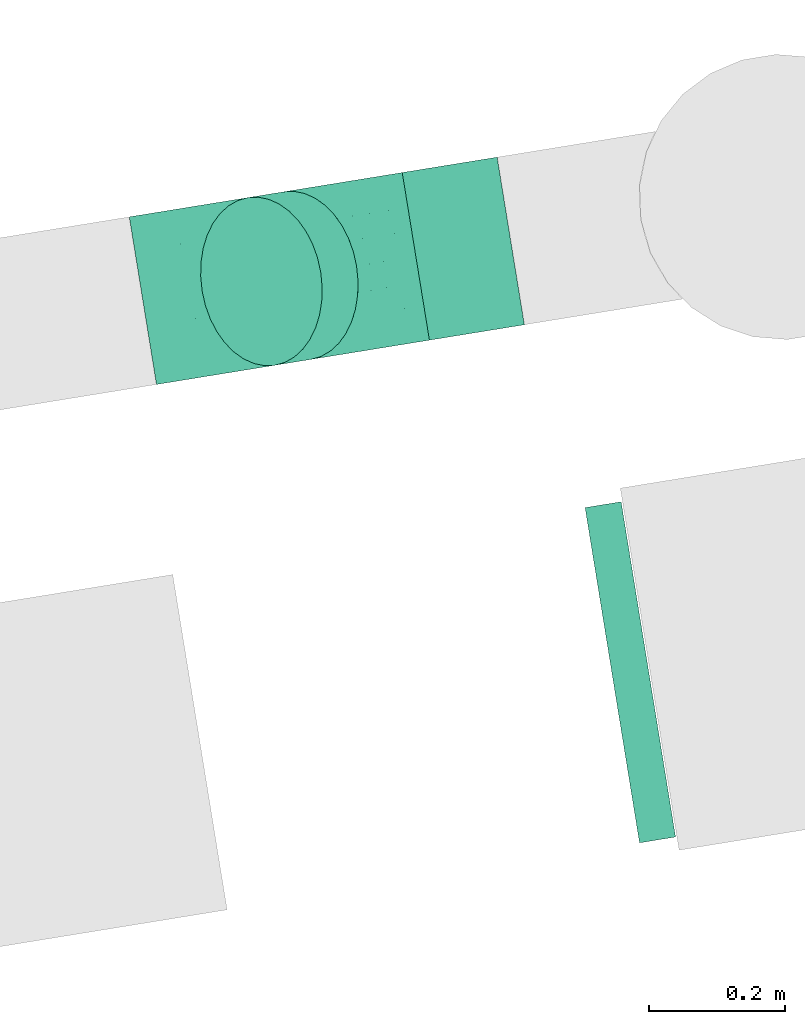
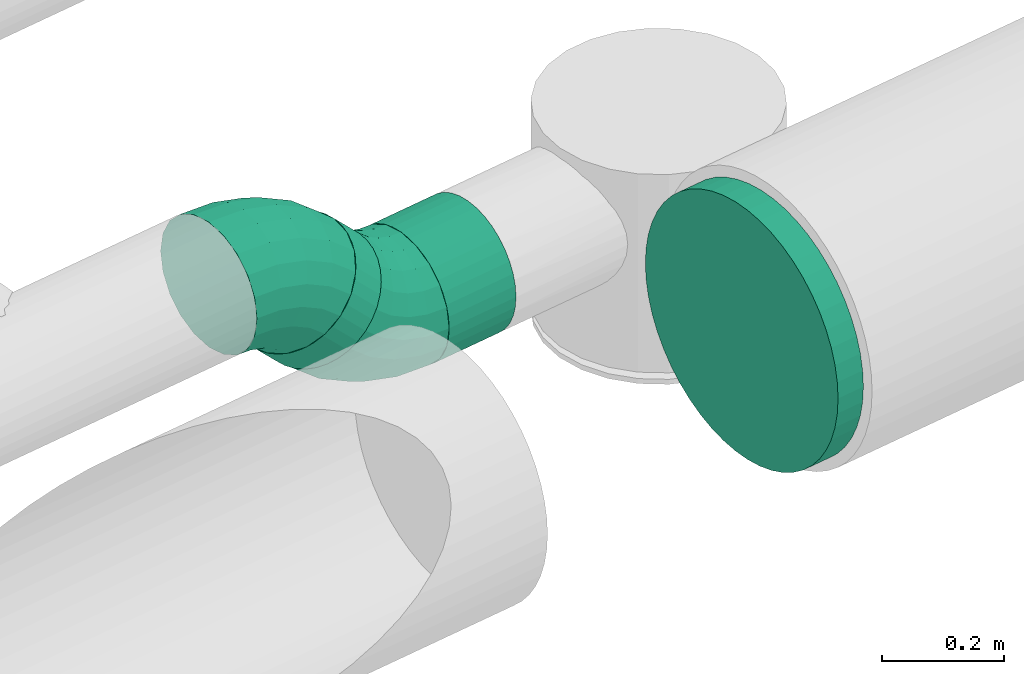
# One storey, part 19 of 39: 3 flow segments, 2 flow fittings.
"""IFC2X3 building model written with IfcOpenShell, lengths in millimetres."""

from ifc_helpers import new_model, entity, si_unit, converted_unit, derived_unit, direction, frame, frame_2d, origin, origin_with_axes, origin_2d_with_axis, place, context, subcontext, project, spatial, circle, extrude, faceted_brep, source, transform, mapped, material, type_object, element, save


model = new_model("IFC2X3")

# Units and contexts
model_context = context("Model", 3, precision=0.01, world=origin(), true_north=direction((6.12323399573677e-17, 1.0)))
plan_context = context("Plan", 3, precision=1e-05, world=origin_with_axes())
body_context = subcontext(model_context, "Body", "Model", "MODEL_VIEW")
ifc_project = project(units=[converted_unit("PLANEANGLEUNIT", "DEGREE", entity("IfcPositiveLengthMeasure", 0.0174532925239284), si_unit("PLANEANGLEUNIT", "RADIAN"), dimensions=[0, 0, 0, 0, 0, 0, 0]), si_unit("AREAUNIT", "SQUARE_METRE"), si_unit("LENGTHUNIT", "METRE", prefix="MILLI"), si_unit("MASSUNIT", "GRAM", prefix="KILO"), si_unit("POWERUNIT", "WATT"), si_unit("PRESSUREUNIT", "PASCAL", prefix="KILO"), si_unit("FORCEUNIT", "NEWTON", prefix="KILO"), si_unit("ELECTRICVOLTAGEUNIT", "VOLT"), si_unit("ELECTRICCURRENTUNIT", "AMPERE"), si_unit("THERMODYNAMICTEMPERATUREUNIT", "DEGREE_CELSIUS"), si_unit("TIMEUNIT", "SECOND"), si_unit("VOLUMEUNIT", "CUBIC_METRE"), derived_unit("LINEARVELOCITYUNIT", [(si_unit("LENGTHUNIT", "METRE"), 1), (si_unit("TIMEUNIT", "SECOND"), -1)]), derived_unit("VOLUMETRICFLOWRATEUNIT", [(si_unit("VOLUMEUNIT", "CUBIC_METRE"), 1), (si_unit("TIMEUNIT", "SECOND"), -1)]), derived_unit("THERMALTRANSMITTANCEUNIT", [(si_unit("POWERUNIT", "WATT"), 1), (si_unit("THERMODYNAMICTEMPERATUREUNIT", "KELVIN"), -1), (si_unit("AREAUNIT", "SQUARE_METRE"), -1)]), derived_unit("SOUNDPRESSUREUNIT", [(si_unit("PRESSUREUNIT", "PASCAL"), 1)])], contexts=[model_context, plan_context])

# Site, building, storey
site_placement = place(None, frame((-0.00071070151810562, 0.00438415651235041, 0.0), z_axis=(0.0, 0.0, 1.0), x_axis=(-0.160236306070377, 0.987078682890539, 0.0)))
site = spatial("IfcSite", under=ifc_project, at=site_placement, Name="Default", CompositionType="ELEMENT")
building_placement = place(site_placement, origin_with_axes())
building = spatial("IfcBuilding", under=site, at=building_placement, CompositionType="ELEMENT")
storey_placement = place(building_placement, frame((0.0, 0.0, 50999.9999999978), z_axis=(0.0, 0.0, 1.0), x_axis=(1.0, 0.0, 0.0)))
storey = spatial("IfcBuildingStorey", under=building, at=storey_placement, Name="Nivå D", CompositionType="ELEMENT", Elevation=50999.9999999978)

# Flow fittings
ifc_material = material(Name="<Unnamed>")
duct_fitting_type = type_object("IfcDuctFittingType", Name="magicirc_elbow_full_radius_1:magicirc_elbow_full_radius_001", PredefinedType="NOTDEFINED", material=ifc_material)
shared_shape = source(origin(), body_context, "Body", "Brep", [
    faceted_brep([(-30.3945198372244, -117.794480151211, 0.0), (-31.5880698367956, -111.79409910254, 38.6271242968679), (-103.553390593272, -118.882064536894, 38.6271242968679), (-103.553390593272, -125.0, 0.0), (-35.0518868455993, -94.3803150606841, 73.4731565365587), (-103.553390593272, -101.127124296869, 73.4731565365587), (-40.4469083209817, -67.2577105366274, 101.127124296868), (-103.553390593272, -73.4731565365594, 101.127124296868), (-47.2450319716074, -33.0812350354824, 118.882064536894), (-103.553390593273, -38.6271242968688, 118.882064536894), (-54.7808100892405, 4.80367989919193, 125.0), (-103.553390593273, 0.0, 125.0), (-62.3165882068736, 42.6885948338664, 118.882064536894), (-103.553390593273, 38.6271242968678, 118.882064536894), (-69.1147118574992, 76.8650703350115, 101.127124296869), (-103.553390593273, 73.4731565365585, 101.127124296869), (-74.5097333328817, 103.987674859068, 73.4731565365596), (-103.553390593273, 101.127124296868, 73.4731565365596), (-77.9735503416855, 121.401458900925, 38.6271242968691), (-103.553390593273, 118.882064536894, 38.6271242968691), (-79.1671003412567, 127.401839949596, 0.0), (-103.553390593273, 125.0, 0.0), (-77.9735503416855, 121.401458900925, -38.6271242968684), (-103.553390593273, 118.882064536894, -38.6271242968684), (-74.5097333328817, 103.987674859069, -73.473156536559), (-103.553390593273, 101.127124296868, -73.473156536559), (-69.1147118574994, 76.8650703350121, -101.127124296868), (-103.553390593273, 73.4731565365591, -101.127124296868), (-62.3165882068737, 42.6885948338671, -118.882064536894), (-103.553390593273, 38.6271242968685, -118.882064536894), (-54.7808100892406, 4.80367989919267, -125.0), (-103.553390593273, 0.0, -125.0), (-47.2450319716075, -33.0812350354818, -118.882064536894), (-103.553390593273, -38.6271242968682, -118.882064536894), (-40.4469083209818, -67.2577105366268, -101.127124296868), (-103.553390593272, -73.4731565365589, -101.127124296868), (-35.0518868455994, -94.3803150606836, -73.4731565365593), (-103.553390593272, -101.127124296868, -73.4731565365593), (-31.5880698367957, -111.79409910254, -38.6271242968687), (-103.553390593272, -118.882064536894, -38.6271242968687), (39.952896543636, -96.4548246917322, 0.0), (37.6116640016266, -90.8025893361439, 38.6271242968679), (30.8171425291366, -74.3991634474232, 73.4731565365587), (20.2344272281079, -48.8502286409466, 101.127124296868), (6.89942800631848, -16.656692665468, 118.882064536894), (-7.88253250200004, 19.030116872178, 125.0), (-22.6644930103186, 54.7169264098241, 118.882064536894), (-35.9994922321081, 86.9104623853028, 101.127124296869), (-46.5822075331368, 112.45939719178, 73.4731565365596), (-53.376729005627, 128.862823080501, 38.6271242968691), (-55.7179615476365, 134.515058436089, 0.0), (-53.3767290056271, 128.862823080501, -38.6271242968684), (-46.582207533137, 112.45939719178, -73.473156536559), (-35.9994922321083, 86.9104623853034, -101.127124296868), (-22.6644930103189, 54.7169264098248, -118.882064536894), (-7.88253250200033, 19.0301168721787, -125.0), (6.89942800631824, -16.6566926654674, -118.882064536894), (20.2344272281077, -48.8502286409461, -101.127124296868), (30.8171425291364, -74.3991634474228, -73.4731565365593), (37.6116640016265, -90.8025893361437, -38.6271242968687), (104.785446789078, -61.801104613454, 0.0), (101.386503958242, -56.7142271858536, 38.6271242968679), (91.5223876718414, -41.9515339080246, 73.4731565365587), (76.1586663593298, -18.9581000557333, 101.127124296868), (56.7992481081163, 10.0153168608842, 118.882064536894), (35.3391676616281, 42.1325969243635, 125.0), (13.8790872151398, 74.2498769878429, 118.882064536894), (-5.48033103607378, 103.22329390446, 101.127124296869), (-20.8440523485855, 126.216727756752, 73.4731565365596), (-30.7081686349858, 140.979421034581, 38.6271242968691), (-34.1071114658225, 146.066298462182, 0.0), (-30.7081686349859, 140.979421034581, -38.6271242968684), (-20.8440523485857, 126.216727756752, -73.473156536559), (-5.48033103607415, 103.223293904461, -101.127124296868), (13.8790872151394, 74.2498769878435, -118.882064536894), (35.3391676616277, 42.1325969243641, -125.0), (56.799248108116, 10.0153168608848, -118.882064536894), (76.1586663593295, -18.9581000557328, -101.127124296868), (91.5223876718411, -41.9515339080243, -73.4731565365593), (101.386503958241, -56.7142271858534, -38.6271242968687), (161.611652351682, -15.1650429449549, 0.0), (157.285618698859, -10.8390092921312, 38.6271242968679), (144.730980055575, 1.7156293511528, 73.4731565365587), (125.176671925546, 21.2699374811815, 101.127124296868), (100.536806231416, 45.9098031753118, 118.882064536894), (73.2233047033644, 73.223304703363, 125.0), (45.9098031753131, 100.536806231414, 118.882064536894), (21.2699374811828, 125.176671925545, 101.127124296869), (1.71562935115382, 144.730980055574, 73.4731565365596), (-10.8390092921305, 157.285618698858, 38.6271242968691), (-15.1650429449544, 161.611652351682, 0.0), (-10.8390092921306, 157.285618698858, -38.6271242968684), (1.71562935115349, 144.730980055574, -73.473156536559), (21.2699374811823, 125.176671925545, -101.127124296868), (45.9098031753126, 100.536806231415, -118.882064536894), (73.2233047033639, 73.2233047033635, -125.0), (100.536806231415, 45.9098031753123, -118.882064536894), (125.176671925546, 21.269937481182, -101.127124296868), (144.730980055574, 1.71562935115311, -73.4731565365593), (157.285618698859, -10.8390092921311, -38.6271242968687)], [[[0, 1, 2, 3]], [[1, 4, 5, 2]], [[4, 6, 7, 5]], [[6, 8, 9, 7]], [[8, 10, 11, 9]], [[10, 12, 13, 11]], [[12, 14, 15, 13]], [[14, 16, 17, 15]], [[16, 18, 19, 17]], [[18, 20, 21, 19]], [[20, 22, 23, 21]], [[22, 24, 25, 23]], [[24, 26, 27, 25]], [[26, 28, 29, 27]], [[28, 30, 31, 29]], [[30, 32, 33, 31]], [[32, 34, 35, 33]], [[34, 36, 37, 35]], [[36, 38, 39, 37]], [[38, 0, 3, 39]], [[40, 41, 1, 0]], [[41, 42, 4, 1]], [[42, 43, 6, 4]], [[43, 44, 8, 6]], [[44, 45, 10, 8]], [[45, 46, 12, 10]], [[46, 47, 14, 12]], [[47, 48, 16, 14]], [[48, 49, 18, 16]], [[49, 50, 20, 18]], [[50, 51, 22, 20]], [[51, 52, 24, 22]], [[52, 53, 26, 24]], [[53, 54, 28, 26]], [[54, 55, 30, 28]], [[55, 56, 32, 30]], [[56, 57, 34, 32]], [[57, 58, 36, 34]], [[58, 59, 38, 36]], [[59, 40, 0, 38]], [[60, 61, 41, 40]], [[61, 62, 42, 41]], [[62, 63, 43, 42]], [[63, 64, 44, 43]], [[64, 65, 45, 44]], [[65, 66, 46, 45]], [[66, 67, 47, 46]], [[67, 68, 48, 47]], [[68, 69, 49, 48]], [[69, 70, 50, 49]], [[70, 71, 51, 50]], [[71, 72, 52, 51]], [[72, 73, 53, 52]], [[73, 74, 54, 53]], [[74, 75, 55, 54]], [[75, 76, 56, 55]], [[76, 77, 57, 56]], [[77, 78, 58, 57]], [[78, 79, 59, 58]], [[79, 60, 40, 59]], [[80, 81, 61, 60]], [[81, 82, 62, 61]], [[82, 83, 63, 62]], [[83, 84, 64, 63]], [[84, 85, 65, 64]], [[85, 86, 66, 65]], [[86, 87, 67, 66]], [[87, 88, 68, 67]], [[88, 89, 69, 68]], [[89, 90, 70, 69]], [[90, 91, 71, 70]], [[91, 92, 72, 71]], [[92, 93, 73, 72]], [[93, 94, 74, 73]], [[94, 95, 75, 74]], [[95, 96, 76, 75]], [[96, 97, 77, 76]], [[97, 98, 78, 77]], [[98, 99, 79, 78]], [[99, 80, 60, 79]], [[3, 2, 5, 7, 9, 11, 13, 15, 17, 19, 21, 23, 25, 27, 29, 31, 33, 35, 37, 39]], [[99, 98, 97, 96, 95, 94, 93, 92, 91, 90, 89, 88, 87, 86, 85, 84, 83, 82, 81, 80]]]),
])
for number, where, z_axis, x_axis, name in (
    (1, (773669.47928963, -597915.985577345, 3110.0), (1.0, 0.0, 0.0), (0.0, 1.0, 0.0), "magicirc_elbow_full_radius_1:magicirc_elbow_full_radius_001"),
    (2, (773669.479289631, -597715.985577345, 3310.0), (-1.0, 9.81307786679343e-18, 9.81307786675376e-18), (1.38777878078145e-17, 0.707106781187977, 0.707106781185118), "magicirc_elbow_full_radius_1:magicirc_elbow_full_radius_001"),
):
    element("IfcFlowFitting", number, at=place(storey_placement, frame(where, z_axis=z_axis, x_axis=x_axis)), inside=storey, type_object=duct_fitting_type, material=ifc_material, Name=name, ObjectType="magicirc_elbow_full_radius_1:magicirc_elbow_full_radius_001", context=body_context, shape_type="MappedRepresentation", body=[
        mapped(shared_shape, transform((0.0, 0.0, 0.0), scale=1.0)),
    ])

# Flow segments
duct_segment_type = type_object("IfcDuctSegmentType", Name="Round Duct:KK001T - Spiro kanaler, Forsinket stål", PredefinedType="NOTDEFINED")
flow_segment_1_placement = place(storey_placement, origin_with_axes())
element("IfcFlowSegment", 3, at=flow_segment_1_placement, inside=storey, type_object=duct_segment_type, Name="Round Duct:KK001T - Spiro kanaler, Forsinket stål", ObjectType="Round Duct:KK001T - Spiro kanaler, Forsinket stål", context=body_context, shape_type="SweptSolid", body=[
    extrude(circle(Radius=250.0, at=origin_2d_with_axis()), frame((773014.47928963, -598259.980498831, 3310.0), z_axis=(0.0, 1.0, 0.0), x_axis=(-1.0, 0.0, 0.0)), (0.0, 0.0, 1.0), 53.7499999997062),
])
flow_segment_2_placement = place(storey_placement, origin_with_axes())
element("IfcFlowSegment", 4, at=flow_segment_2_placement, inside=storey, type_object=duct_segment_type, Name="Round Duct:KK001T - Spiro kanaler, Forsinket stål", ObjectType="Round Duct:KK001T - Spiro kanaler, Forsinket stål", context=body_context, shape_type="SweptSolid", body=[
    extrude(circle(Radius=125.0, at=origin_2d_with_axis()), frame((773669.47928963, -598161.117966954, 3110.0), z_axis=(0.0, 1.0, 0.0), x_axis=(1.0, 0.0, 0.0)), (0.0, 0.0, 1.0), 141.578999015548),
])
flow_segment_3_placement = place(storey_placement, origin_with_axes())
element("IfcFlowSegment", 5, at=flow_segment_3_placement, inside=storey, type_object=duct_segment_type, Name="Round Duct:KK001T - Spiro kanaler, Forsinket stål", ObjectType="Round Duct:KK001T - Spiro kanaler, Forsinket stål", context=body_context, shape_type="SweptSolid", body=[
    extrude(circle(Radius=125.0, at=frame_2d((1.27743847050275e-24, -6.12562152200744e-12), x_axis=(1.0, 0.0))), frame((773669.47928963, -597842.762272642, 3183.22330470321), z_axis=(0.0, 0.707106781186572, 0.707106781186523), x_axis=(-1.0, 0.0, 0.0)), (0.0, 0.0, 1.0), 75.7359312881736),
])

save(model, "model.ifc")
